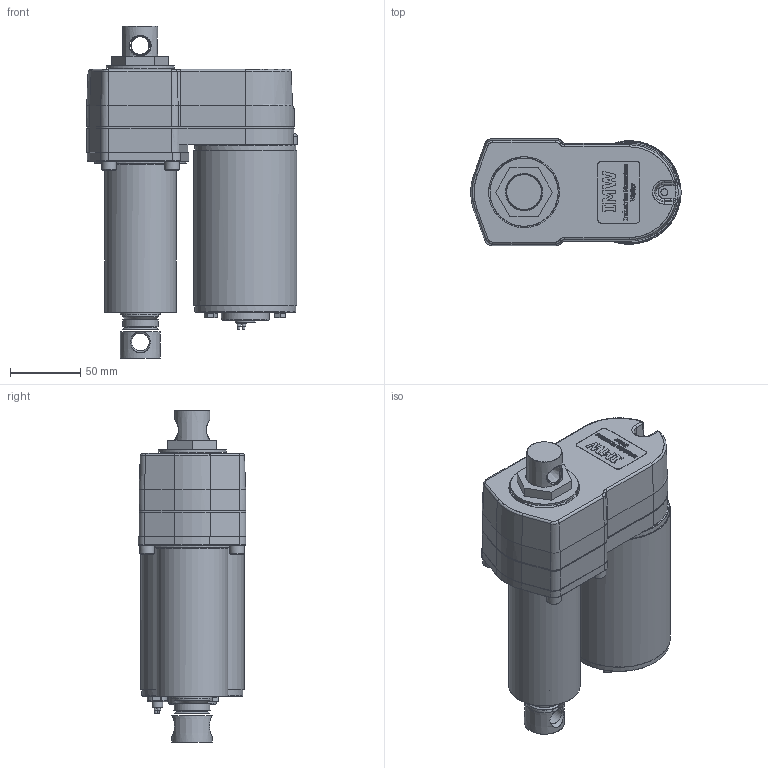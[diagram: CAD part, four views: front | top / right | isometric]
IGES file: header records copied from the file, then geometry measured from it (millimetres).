
Start section: SolidWorks IGES file using analytic representation for surfaces
Global section: file name: H:\MARCELO\014 PAGINA WEB\ACTUADOR LINEAL\WWELACT - 2 2P\welact - 2 - 2\WELACT-2-2-PMI.IGS; native system: SolidWorks 2017; preprocessor: SolidWorks 2017; author: IMW-200; date: 240209.144037; units: millimetre
Bounding box: 149.98 x 76.5 x 236.57 mm (x, y, z)
Surface area: 216412.4 mm2 (no closed solid volume)
Topology: 0 solids, 0 shells, 1586 faces, 18002 edges, 17779 vertices
Faces by surface type: bspline 1108, revolution 478
